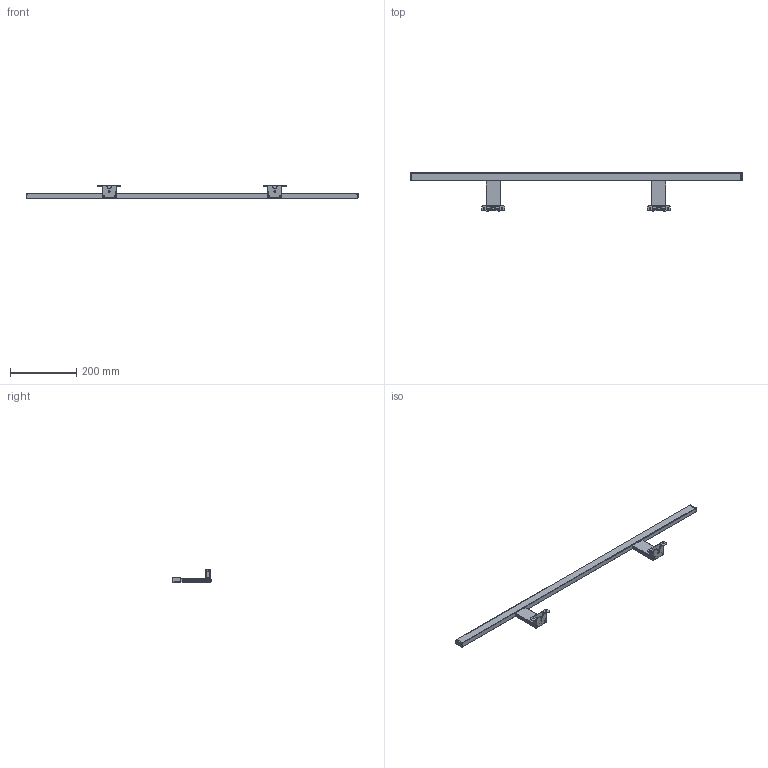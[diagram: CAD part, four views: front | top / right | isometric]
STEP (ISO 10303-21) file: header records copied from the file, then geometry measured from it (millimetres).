
FILE_DESCRIPTION (( 'STEP AP203' ), '1' );
FILE_NAME ('2000649_Lilium Emotopn 1000.STEP', '2021-01-21T12:20:55', ( '' ), ( '' ), 'SwSTEP 2.0', 'SolidWorks 2018', '' );
FILE_SCHEMA (( 'CONFIG_CONTROL_DESIGN' ));
Length unit declared in the file: millimetre
Products named in the file (1): 2000649_Lilium Emotopn 1000
Bounding box: 1002 x 116.5 x 37.05 mm (x, y, z)
Volume: 402764.7 mm3; surface area: 138155 mm2
Topology: 1 solids, 1 shells, 556 faces, 1484 edges, 928 vertices
Faces by surface type: plane 274, cylinder 192, bspline 48, cone 34, torus 8
Entity records: 20951 total; most frequent: CARTESIAN_POINT 7671, ORIENTED_EDGE 2968, DIRECTION 2450, EDGE_CURVE 1484, VERTEX_POINT 928, VECTOR 856, LINE 856, AXIS2_PLACEMENT_3D 797
